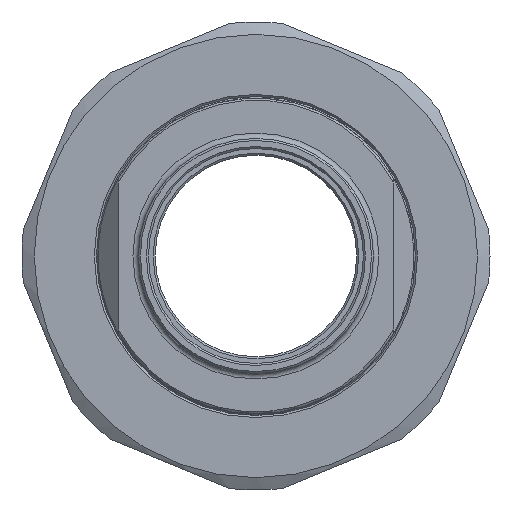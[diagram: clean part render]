
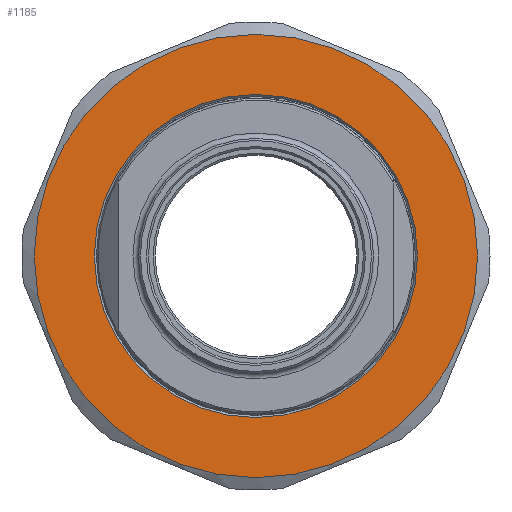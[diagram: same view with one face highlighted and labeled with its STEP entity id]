
A CAD part, left-side view. The second image highlights one B-rep face of the part: STEP entity #1185.
In plain terms, the highlighted planar face has unit normal (-1, 0, 0).
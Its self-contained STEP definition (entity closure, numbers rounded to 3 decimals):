
#68=FACE_BOUND('',#201,.T.);
#79=PLANE('',#1336);
#127=FACE_OUTER_BOUND('',#200,.T.);
#200=EDGE_LOOP('',(#814));
#201=EDGE_LOOP('',(#815));
#402=CIRCLE('',#1335,24.05);
#403=CIRCLE('',#1337,33.);
#499=VERTEX_POINT('',#1936);
#500=VERTEX_POINT('',#1940);
#622=EDGE_CURVE('',#499,#499,#402,.T.);
#624=EDGE_CURVE('',#500,#500,#403,.T.);
#814=ORIENTED_EDGE('',*,*,#624,.T.);
#815=ORIENTED_EDGE('',*,*,#622,.F.);
#1185=ADVANCED_FACE('',(#127,#68),#79,.T.);
#1335=AXIS2_PLACEMENT_3D('',#1937,#1527,#1528);
#1336=AXIS2_PLACEMENT_3D('',#1939,#1530,#1531);
#1337=AXIS2_PLACEMENT_3D('',#1941,#1532,#1533);
#1527=DIRECTION('center_axis',(-1.,0.,0.));
#1528=DIRECTION('ref_axis',(0.,1.,0.));
#1530=DIRECTION('center_axis',(-1.,0.,0.));
#1531=DIRECTION('ref_axis',(0.,0.,1.));
#1532=DIRECTION('center_axis',(-1.,0.,0.));
#1533=DIRECTION('ref_axis',(0.,1.,0.));
#1936=CARTESIAN_POINT('',(-23.,-24.05,0.));
#1937=CARTESIAN_POINT('Origin',(-23.,0.,0.));
#1939=CARTESIAN_POINT('Origin',(-23.,0.,0.));
#1940=CARTESIAN_POINT('',(-23.,-33.,0.));
#1941=CARTESIAN_POINT('Origin',(-23.,0.,0.));
